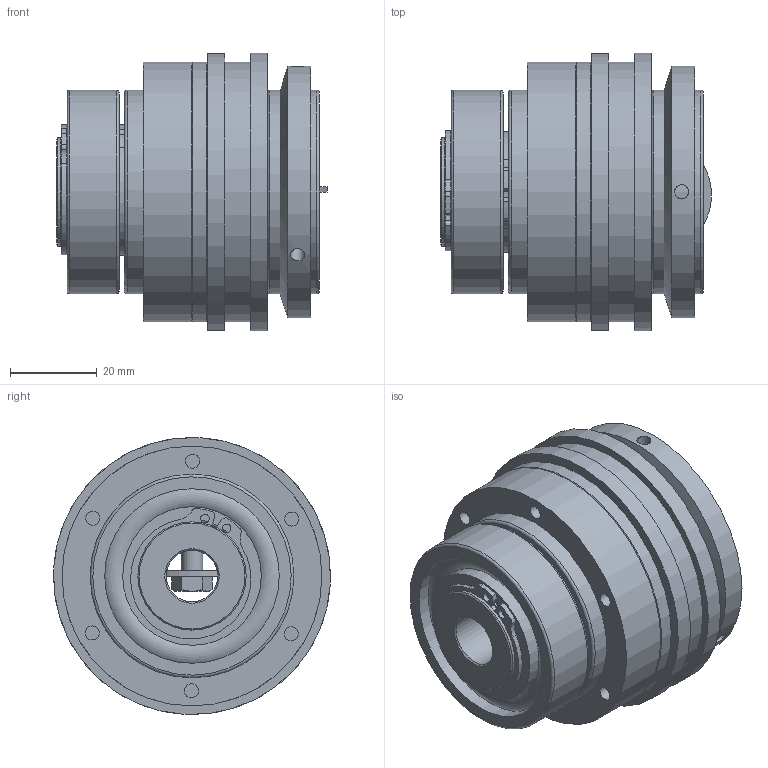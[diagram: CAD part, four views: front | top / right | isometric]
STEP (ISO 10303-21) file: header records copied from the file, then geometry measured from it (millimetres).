
FILE_DESCRIPTION( ( 'Unknown' ), '1' );
FILE_NAME( 'C:/Dokumente und Einstellungen/Sven/Desktop/hp kbk/KBK LL-I-30.stp', 'Unknown', ( 'Unknown' ), ( 'Unknown' ), 'XStep 1.0', 'Unknown', ' ' );
FILE_SCHEMA( ( 'automotive_design' ) );
Length unit declared in the file: millimetre
Products named in the file (12): Assem1; Assem2; ball_bearing_-_6005_0_01; ball_bearing_-_6005_0_02; ball_bearing_-_6005_0_03; Stellring 30; Druckring 30; a_25; Konusbuchse KBK L-I-30; din_en_24017_m5x16; KBK LL-I-30 Grundkörper; Flansch L30
Bounding box: 62.5 x 64 x 64 mm (x, y, z)
Volume: 196129.3 mm3; surface area: 118121.3 mm2
Topology: 32 solids, 32 shells, 492 faces, 1042 edges, 663 vertices
Faces by surface type: plane 203, cylinder 154, cone 96, torus 39
Full cylindrical faces by diameter (mm): 2 x6, 3.242 x18, 4.134 x18, 5 x7, 5.5 x12, 6.88 x7, 12 x4, 23.9 x4, 24.4 x2, 25 x10, 32 x8, 34 x2, 38 x4, 39.5 x2, 40 x2, 40.3 x8, 47 x6, 52 x2, 58 x2, 60 x4, 64 x2
Entity records: 4685 total; most frequent: CARTESIAN_POINT 1039, DIRECTION 774, ORIENTED_EDGE 512, AXIS2_PLACEMENT_3D 359, EDGE_LOOP 306, EDGE_CURVE 256, FACE_OUTER_BOUND 227, VERTEX_POINT 208
